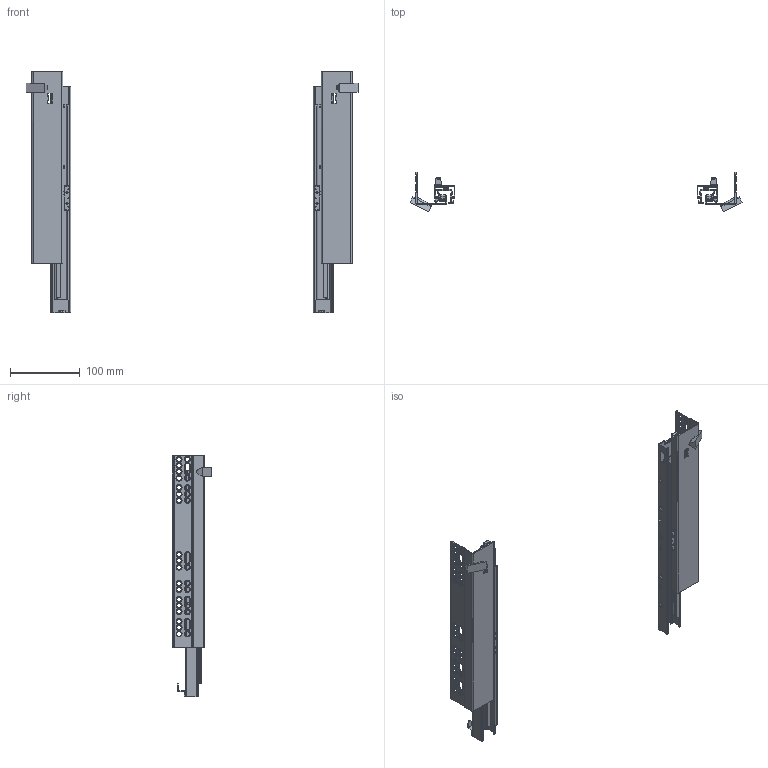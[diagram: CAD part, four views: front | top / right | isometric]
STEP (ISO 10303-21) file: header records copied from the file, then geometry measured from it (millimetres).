
FILE_DESCRIPTION (( 'STEP AP203' ), '1' );
FILE_NAME ('728MCFH(19)-340-TM 客人用图.STEP', '2021-02-24T06:28:58', ( '微软用户' ), ( '微软中国' ), 'SwSTEP 2.0', 'SolidWorks 2014', '' );
FILE_SCHEMA (( 'CONFIG_CONTROL_DESIGN' ));
Length unit declared in the file: millimetre
Products named in the file (17): 728CFH-350-ZG-R  中轨组件（右） 客人用图; 镜向728CFH(19)-350 固定轨（右）客人参考用; 728MCFH(19)-340-TM  客人用图; 728MCFH（16）-340-HDG-R  活动轨（右） 客人用图; 708-1 尾勾（常规三节轨用）; 728-2 活动轨挡位焊片（无把手有把手通用）; 镜向708-1 尾勾（常规三节轨用）; 728MCFH(16)-340-HDG-R 活动轨组件（右）客人用图; 镜向728-2 活动轨挡位焊片（无把手有把手通用）; 镜向728MCFH(16)-340-HDG-R 活动轨组件（右）客人用图; 728CFH-350-R  中轨（右）客人用图; 镜向728CFH-350-R  中轨（右）客人用图; 噩砃728 笢寢爾え; 镜向728CFH-350-ZG-R  中轨组件（右） 客人用图; 728 笢寢爾え; 728CFH(19)-350 固定轨（右）客人参考用; 镜向728MCFH（16）-340-HDG-R  活动轨（右） 客人用图
Assembly tree (16 placements, depth 3):
  728MCFH(19)-340-TM  客人用图
    728CFH(19)-350 固定轨（右）客人参考用
    728MCFH(16)-340-HDG-R 活动轨组件（右）客人用图
      728MCFH（16）-340-HDG-R  活动轨（右） 客人用图
      708-1 尾勾（常规三节轨用）
      728-2 活动轨挡位焊片（无把手有把手通用）
    728CFH-350-ZG-R  中轨组件（右） 客人用图
      728CFH-350-R  中轨（右）客人用图
      728 笢寢爾え
    镜向728CFH(19)-350 固定轨（右）客人参考用
    镜向728MCFH(16)-340-HDG-R 活动轨组件（右）客人用图
      镜向728MCFH（16）-340-HDG-R  活动轨（右） 客人用图
      镜向708-1 尾勾（常规三节轨用）
      镜向728-2 活动轨挡位焊片（无把手有把手通用）
    镜向728CFH-350-ZG-R  中轨组件（右） 客人用图
      镜向728CFH-350-R  中轨（右）客人用图
      噩砃728 笢寢爾え
Bounding box: 476.96 x 56.31 x 347.4 mm (x, y, z)
Volume: 204722.2 mm3; surface area: 289509.5 mm2
Topology: 14 solids, 14 shells, 1722 faces, 4372 edges, 2760 vertices
Faces by surface type: plane 816, cylinder 604, cone 284, bspline 14, torus 4
Entity records: 55157 total; most frequent: CARTESIAN_POINT 10319, DIRECTION 9342, ORIENTED_EDGE 8744, EDGE_CURVE 4372, AXIS2_PLACEMENT_3D 3329, VERTEX_POINT 2760, VECTOR 2684, LINE 2684
